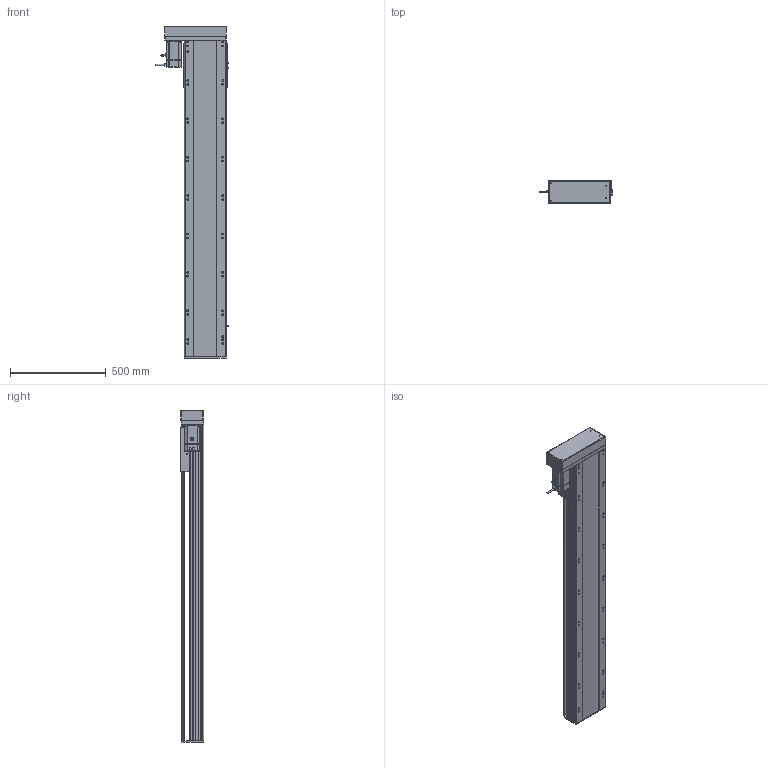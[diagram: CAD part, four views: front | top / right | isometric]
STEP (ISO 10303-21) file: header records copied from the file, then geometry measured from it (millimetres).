
FILE_DESCRIPTION (( 'STEP AP214' ), '1' );
FILE_NAME ('RTH22-XX-1350-R-M75-C4.STEP', '2025-10-25T03:15:05', ( 'Microsoft' ), ( 'Microsoft' ), 'SwSTEP 2.0', 'SolidWorks 2018', '' );
FILE_SCHEMA (( 'AUTOMOTIVE_DESIGN' ));
Length unit declared in the file: millimetre
Products named in the file (10): N_OMRON EE-SX672 传感器^RTH22-XX-XX-R-M75-C4; N_RTH22-L-011菁釱^RTH22-XX-XX-R-M75-C4; N_RTH22-R-008-P75萇儂啣^RTH22-XX-XX-R-M75-C4; N_750W萇儂^RTH22-XX-XX-R-M75-C4; RTH22-XX-1350-R-M75-C4; N_RTH22-L-004-SFS25賑釱^RTH22-XX-XX-R-M75-C4; N_RTH22-L-007奻裔^RTH22-XX-XX-R-M75-C4; N_RTH22-GY-013外置感应片^RTH22-XX-XX-R-M75-C4; N_RTH22-L-018裔赽^RTH22-XX-XX-R-M75-C4; N_RTH22-GY-001耜裔^RTH22-XX-XX-R-M75-C4
Assembly tree (11 placements, depth 2):
  RTH22-XX-1350-R-M75-C4
    N_RTH22-L-011菁釱^RTH22-XX-XX-R-M75-C4
    N_RTH22-GY-001耜裔^RTH22-XX-XX-R-M75-C4
    N_750W萇儂^RTH22-XX-XX-R-M75-C4
    N_RTH22-R-008-P75萇儂啣^RTH22-XX-XX-R-M75-C4
    N_RTH22-L-007奻裔^RTH22-XX-XX-R-M75-C4
    N_OMRON EE-SX672 传感器^RTH22-XX-XX-R-M75-C4  x3
    N_RTH22-GY-013外置感应片^RTH22-XX-XX-R-M75-C4
    N_RTH22-L-004-SFS25賑釱^RTH22-XX-XX-R-M75-C4
    N_RTH22-L-018裔赽^RTH22-XX-XX-R-M75-C4
Bounding box: 384.7 x 122 x 1729.7 mm (x, y, z)
Volume: 23013609.1 mm3; surface area: 2519872.7 mm2
Topology: 11 solids, 11 shells, 1628 faces, 4447 edges, 2863 vertices
Faces by surface type: plane 797, cylinder 486, bspline 279, cone 66
Entity records: 41283 total; most frequent: CARTESIAN_POINT 12498, ORIENTED_EDGE 5854, DIRECTION 5553, EDGE_CURVE 2927, VERTEX_POINT 1899, AXIS2_PLACEMENT_3D 1882, LINE 1789, VECTOR 1789
